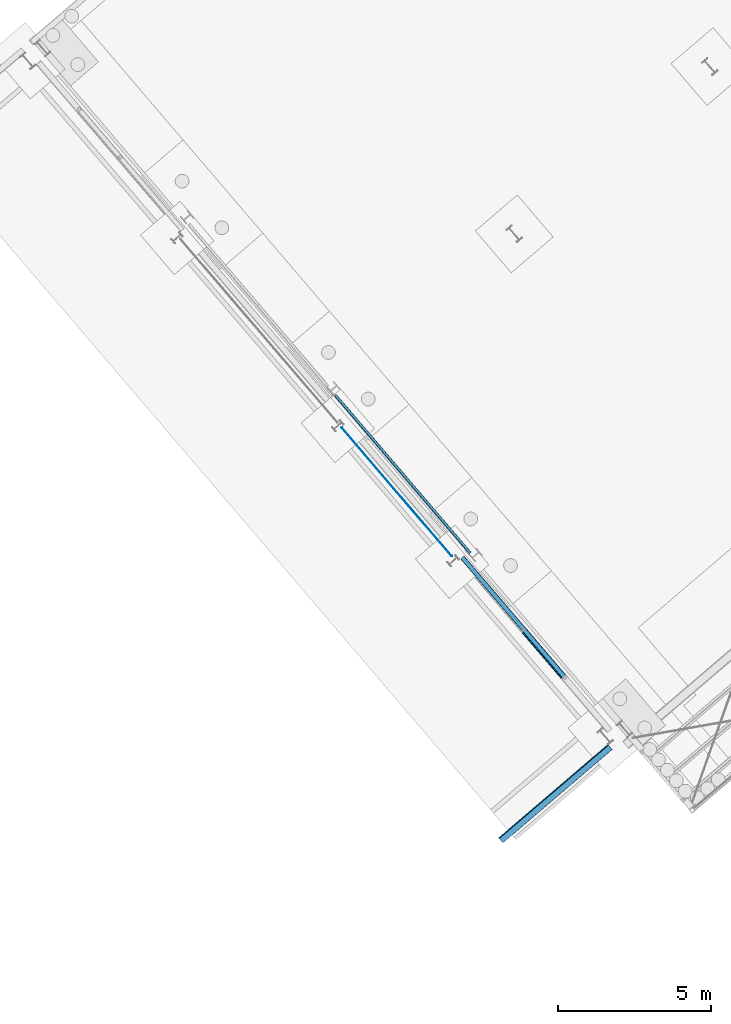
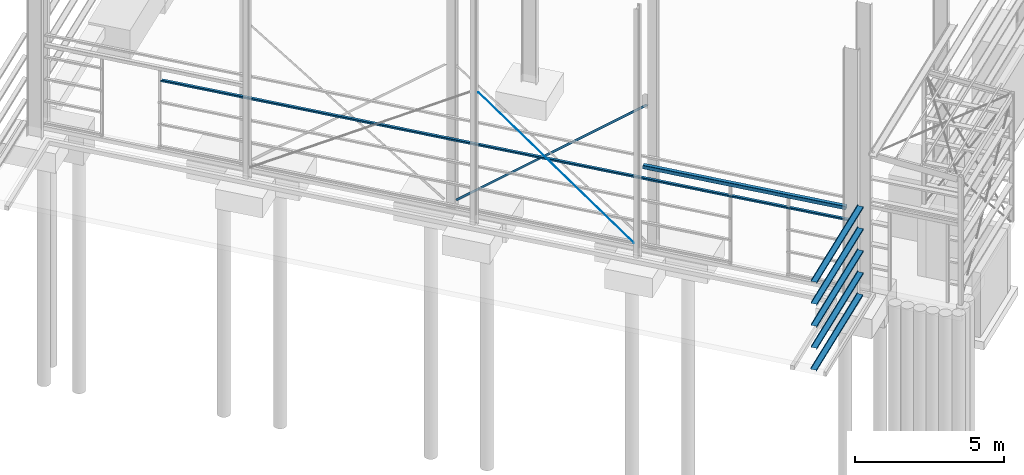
# One storey, part 12 of 41: 9 beams.
"""IFC2X3 building model written with IfcOpenShell, lengths in millimetres."""

from ifc_helpers import new_model, entity, si_unit, converted_unit, derived_unit, direction, frame, frame_2d, origin, place, context, subcontext, project, spatial, polyline, circle_curve, parameter, trimmed, segment, composite_curve, circle, outline, extrude, material, type_object, element, save


model = new_model("IFC2X3")

# Units and contexts
model_context = context("Model", 3, precision=0.01, world=origin(), true_north=direction((6.123031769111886e-17, 1.0)))
body_context = subcontext(model_context, "Body", "Model", "MODEL_VIEW")
ifc_project = project(units=[si_unit("LENGTHUNIT", "METRE", prefix="MILLI"), si_unit("AREAUNIT", "SQUARE_METRE"), si_unit("VOLUMEUNIT", "CUBIC_METRE"), converted_unit("PLANEANGLEUNIT", "DEGREE", entity("IfcRatioMeasure", 0.017453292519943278), si_unit("PLANEANGLEUNIT", "RADIAN"), dimensions=[0, 0, 0, 0, 0, 0, 0]), si_unit("MASSUNIT", "GRAM", prefix="KILO"), derived_unit("MASSDENSITYUNIT", [(si_unit("MASSUNIT", "GRAM", prefix="KILO"), 1), (si_unit("LENGTHUNIT", "METRE"), -3)]), derived_unit("MOMENTOFINERTIAUNIT", [(si_unit("LENGTHUNIT", "METRE"), 4)]), si_unit("TIMEUNIT", "SECOND"), si_unit("FREQUENCYUNIT", "HERTZ"), si_unit("THERMODYNAMICTEMPERATUREUNIT", "DEGREE_CELSIUS"), derived_unit("THERMALTRANSMITTANCEUNIT", [(si_unit("MASSUNIT", "GRAM", prefix="KILO"), 1), (si_unit("THERMODYNAMICTEMPERATUREUNIT", "KELVIN"), -1), (si_unit("TIMEUNIT", "SECOND"), -3)]), derived_unit("VOLUMETRICFLOWRATEUNIT", [(si_unit("LENGTHUNIT", "METRE"), 3), (si_unit("TIMEUNIT", "SECOND"), -1)]), derived_unit("MASSFLOWRATEUNIT", [(si_unit("MASSUNIT", "GRAM", prefix="KILO"), 1), (si_unit("TIMEUNIT", "SECOND"), -1)]), derived_unit("ROTATIONALFREQUENCYUNIT", [(si_unit("TIMEUNIT", "SECOND"), -1)]), si_unit("ELECTRICCURRENTUNIT", "AMPERE"), si_unit("ELECTRICVOLTAGEUNIT", "VOLT"), si_unit("POWERUNIT", "WATT"), si_unit("FORCEUNIT", "NEWTON", prefix="KILO"), si_unit("ILLUMINANCEUNIT", "LUX"), si_unit("LUMINOUSFLUXUNIT", "LUMEN"), si_unit("LUMINOUSINTENSITYUNIT", "CANDELA"), derived_unit("USERDEFINED", [(si_unit("MASSUNIT", "GRAM", prefix="KILO"), -1), (si_unit("LENGTHUNIT", "METRE"), -2), (si_unit("TIMEUNIT", "SECOND"), 3), (si_unit("LUMINOUSFLUXUNIT", "LUMEN"), 1)]), derived_unit("SOUNDPOWERUNIT", [(si_unit("MASSUNIT", "GRAM", prefix="KILO"), 1), (si_unit("LENGTHUNIT", "METRE"), 2), (si_unit("TIMEUNIT", "SECOND"), -3)]), derived_unit("LINEARVELOCITYUNIT", [(si_unit("LENGTHUNIT", "METRE"), 1), (si_unit("TIMEUNIT", "SECOND"), -1)]), si_unit("PRESSUREUNIT", "PASCAL"), derived_unit("USERDEFINED", [(si_unit("LENGTHUNIT", "METRE"), -2), (si_unit("MASSUNIT", "GRAM", prefix="KILO"), 1), (si_unit("TIMEUNIT", "SECOND"), -2)]), derived_unit("LINEARFORCEUNIT", [(si_unit("MASSUNIT", "GRAM", prefix="KILO"), 1), (si_unit("LENGTHUNIT", "METRE"), 1), (si_unit("TIMEUNIT", "SECOND"), -2), (si_unit("LENGTHUNIT", "METRE"), -1)]), derived_unit("PLANARFORCEUNIT", [(si_unit("MASSUNIT", "GRAM", prefix="KILO"), 1), (si_unit("LENGTHUNIT", "METRE"), 1), (si_unit("TIMEUNIT", "SECOND"), -2), (si_unit("LENGTHUNIT", "METRE"), -2)])], contexts=[model_context])

# Site, building, storey
site_placement = place(None, frame((962.4174930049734, -6014.433753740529, 0.0), z_axis=(0.0, 0.0, 1.0), x_axis=(0.7601792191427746, 0.649713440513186, 0.0)))
site = spatial("IfcSite", under=ifc_project, at=site_placement, Name="Default", CompositionType="ELEMENT")
building_placement = place(site_placement, origin())
building = spatial("IfcBuilding", under=site, at=building_placement, CompositionType="ELEMENT")
storey_placement = place(building_placement, origin())
storey = spatial("IfcBuildingStorey", under=building, at=storey_placement, Name="Datum", CompositionType="ELEMENT", Elevation=0.0)

# Beams
ifc_material = material(Name="Metal - Steel - 300 MPa")
beam_type_1 = type_object("IfcBeamType", Name="ADSK_AU_EA-Equal Angles (AS 3679_1):90x90x10EA", PredefinedType="NOTDEFINED")
beam_1_placement = place(storey_placement, frame((154456.88550735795, -18154.018187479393, 5657.6167688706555), z_axis=(0.0, 0.6283895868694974, 0.777898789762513), x_axis=(0.0, 0.777898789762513, -0.6283895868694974)))
element("IfcBeam", 1, at=beam_1_placement, inside=storey, type_object=beam_type_1, material=ifc_material, Name="ADSK_AU_EA-Equal Angles (AS 3679_1):90x90x10EA", ObjectType="ADSK_AU_EA-Equal Angles (AS 3679_1):90x90x10EA", context=body_context, shape_type="SweptSolid", body=[
    extrude(outline(composite_curve([segment(polyline([(29.222222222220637, -55.77777777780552), (34.22222222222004, -55.77777777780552)]), True, "CONTINUOUS"), segment(polyline([(34.22222222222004, -55.777777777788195), (34.22222222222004, 34.222222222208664)]), True, "CONTINUOUS"), segment(polyline([(34.22222222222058, 34.222222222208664), (-55.77777777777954, 34.222222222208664)]), True, "CONTINUOUS"), segment(polyline([(-55.77777777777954, 34.222222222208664), (-55.77777777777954, 29.2222222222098)]), True, "CONTINUOUS"), segment(trimmed(circle_curve(frame_2d((-50.77777777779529, 29.222222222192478), x_axis=(-1.0, 0.0)), 4.999999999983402), [parameter(0.0)], [parameter(90.0000000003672)], True, "PARAMETER"), True, "CONTINUOUS"), segment(polyline([(-50.77777777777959, 24.222222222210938), (16.22222222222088, 24.222222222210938)]), True, "CONTINUOUS"), segment(trimmed(circle_curve(frame_2d((16.22222222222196, 16.222222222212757), x_axis=(0.0, 1.0)), 7.9999999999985), [parameter(269.99999999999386)], [parameter(0.0)], True, "PARAMETER"), False, "CONTINUOUS"), segment(polyline([(24.222222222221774, 16.222222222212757), (24.222222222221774, -50.77777777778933)]), True, "CONTINUOUS"), segment(trimmed(circle_curve(frame_2d((29.22222222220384, -50.77777777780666), x_axis=(-1.0, 0.0)), 4.99999999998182), [parameter(0.0)], [parameter(90.00000000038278)], True, "PARAMETER"), True, "CONTINUOUS")], self_intersect=False)), frame((3.818150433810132, -8.522222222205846, -55.777777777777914), z_axis=(1.0, 0.0, 0.0), x_axis=(0.0, 0.0, -1.0)), (0.0, 0.0, 1.0), 8710.081849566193),
])
beam_type_2 = type_object("IfcBeamType", Name="ADSK_UK_Light Gauge-Zeds-Purlin:Metsec-202Z14", PredefinedType="NOTDEFINED")
beam_2_placement = place(storey_placement, frame((154066.46020470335, -25607.428082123, 2800.0), z_axis=(0.0, 0.0, 1.0), x_axis=(0.0, 1.0, 0.0)))
element("IfcBeam", 2, at=beam_2_placement, inside=storey, type_object=beam_type_2, material=ifc_material, Name="ADSK_UK_Light Gauge-Zeds-Purlin:Metsec-202Z14", ObjectType="ADSK_UK_Light Gauge-Zeds-Purlin:Metsec-202Z14", context=body_context, shape_type="SweptSolid", body=[
    extrude(outline(composite_curve([segment(polyline([(3.600000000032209, -101.19999999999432), (58.0, -101.19999999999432)]), True, "CONTINUOUS"), segment(trimmed(circle_curve(frame_2d((58.0, -98.39999999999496), x_axis=(0.0, -1.0)), 2.800000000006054), [parameter(0.0)], [parameter(89.99999999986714)], True, "PARAMETER"), True, "CONTINUOUS"), segment(polyline([(60.8000000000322, -98.39999999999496), (60.79999999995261, -80.1999999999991)]), True, "CONTINUOUS"), segment(polyline([(60.80000000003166, -80.1999999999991), (59.399999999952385, -80.1999999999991)]), True, "CONTINUOUS"), segment(polyline([(59.40000000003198, -80.19999999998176), (59.399999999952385, -98.39999999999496)]), True, "CONTINUOUS"), segment(trimmed(circle_curve(frame_2d((58.0, -98.39999999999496), x_axis=(1.0, 0.0)), 1.3999999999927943), [parameter(269.9999999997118)], [parameter(0.0)], True, "PARAMETER"), False, "CONTINUOUS"), segment(polyline([(58.0, -99.79999999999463), (3.5999999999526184, -99.79999999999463)]), True, "CONTINUOUS"), segment(trimmed(circle_curve(frame_2d((3.5999999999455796, -98.39999999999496), x_axis=(0.0, -1.0)), 1.3999999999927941), [parameter(269.9999999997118)], [parameter(0.0)], True, "PARAMETER"), False, "CONTINUOUS"), segment(polyline([(2.200000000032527, -98.39999999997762), (2.1999999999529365, 98.0)]), True, "CONTINUOUS"), segment(trimmed(circle_curve(frame_2d((-0.600000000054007, 98.0), x_axis=(1.0, 0.0)), 2.800000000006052), [parameter(0.0)], [parameter(89.99999999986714)], True, "PARAMETER"), True, "CONTINUOUS"), segment(polyline([(-0.5999999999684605, 100.80000000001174), (-60.0, 100.80000000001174)]), True, "CONTINUOUS"), segment(trimmed(circle_curve(frame_2d((-60.0, 98.0), x_axis=(0.0, 1.0)), 2.8000000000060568), [parameter(0.0)], [parameter(89.99999999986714)], True, "PARAMETER"), True, "CONTINUOUS"), segment(polyline([(-62.79999999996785, 98.0), (-62.80000000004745, 81.80000000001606)]), True, "CONTINUOUS"), segment(polyline([(-62.79999999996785, 81.80000000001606), (-61.40000000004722, 81.80000000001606)]), True, "CONTINUOUS"), segment(polyline([(-61.39999999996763, 81.80000000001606), (-61.40000000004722, 98.0)]), True, "CONTINUOUS"), segment(trimmed(circle_curve(frame_2d((-60.0, 98.0), x_axis=(-1.0, 0.0)), 1.399999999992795), [parameter(269.9999999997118)], [parameter(0.0)], True, "PARAMETER"), False, "CONTINUOUS"), segment(polyline([(-60.0, 99.40000000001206), (-0.6000000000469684, 99.40000000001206)]), True, "CONTINUOUS"), segment(trimmed(circle_curve(frame_2d((-0.6000000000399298, 98.0), x_axis=(0.0, 1.0)), 1.3999999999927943), [parameter(269.9999999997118)], [parameter(0.0)], True, "PARAMETER"), False, "CONTINUOUS"), segment(polyline([(0.8000000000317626, 98.0), (0.7999999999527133, -98.39999999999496)]), True, "CONTINUOUS"), segment(trimmed(circle_curve(frame_2d((3.5999999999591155, -98.39999999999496), x_axis=(-1.0, 0.0)), 2.800000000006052), [parameter(0.0)], [parameter(89.99999999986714)], True, "PARAMETER"), True, "CONTINUOUS")], self_intersect=False)), frame((43.0, -100.79999999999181, 0.6999999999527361), z_axis=(1.0, 0.0, 0.0), x_axis=(0.0, 0.0, -1.0)), (0.0, 0.0, 1.0), 24537.0),
])
beam_3_placement = place(storey_placement, frame((153823.43877903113, -25888.928082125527, 3700.0), z_axis=(0.0, 0.0, 1.0), x_axis=(-1.0, 0.0, 0.0)))
element("IfcBeam", 3, at=beam_3_placement, inside=storey, type_object=beam_type_2, material=ifc_material, Name="ADSK_UK_Light Gauge-Zeds-Purlin:Metsec-202Z14", ObjectType="ADSK_UK_Light Gauge-Zeds-Purlin:Metsec-202Z14", context=body_context, shape_type="SweptSolid", body=[
    extrude(outline(composite_curve([segment(polyline([(-60.0, -100.80000000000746), (-0.5999999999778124, -100.80000000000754)]), True, "CONTINUOUS"), segment(trimmed(circle_curve(frame_2d((-0.5999999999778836, -98.0), x_axis=(0.0, -1.0)), 2.7999999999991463), [parameter(0.0)], [parameter(90.00000000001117)], True, "PARAMETER"), True, "CONTINUOUS"), segment(polyline([(2.2000000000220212, -98.0), (2.1999999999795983, 98.3999999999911)]), True, "CONTINUOUS"), segment(trimmed(circle_curve(frame_2d((3.59999999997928, 98.40000000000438), x_axis=(-1.0, 0.0)), 1.4000000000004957), [parameter(270.00000000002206)], [parameter(0.0)], True, "PARAMETER"), False, "CONTINUOUS"), segment(polyline([(3.599999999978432, 99.80000000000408), (58.0, 99.80000000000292)]), True, "CONTINUOUS"), segment(trimmed(circle_curve(frame_2d((58.0, 98.40000000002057), x_axis=(0.0, 1.0)), 1.3999999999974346), [parameter(269.99999999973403)], [parameter(0.0)], True, "PARAMETER"), False, "CONTINUOUS"), segment(polyline([(59.3999999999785, 98.40000000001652), (59.399999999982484, 80.20000000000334)]), True, "CONTINUOUS"), segment(polyline([(59.399999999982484, 80.20000000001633), (60.79999999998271, 80.20000000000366)]), True, "CONTINUOUS"), segment(polyline([(60.79999999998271, 80.20000000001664), (60.79999999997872, 98.40000000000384)]), True, "CONTINUOUS"), segment(trimmed(circle_curve(frame_2d((58.0, 98.40000000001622), x_axis=(1.0, 0.0)), 2.7999999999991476), [parameter(0.0)], [parameter(90.00000000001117)], True, "PARAMETER"), True, "CONTINUOUS"), segment(polyline([(58.0, 101.2000000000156), (3.5999999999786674, 101.19999999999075)]), True, "CONTINUOUS"), segment(trimmed(circle_curve(frame_2d((3.5999999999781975, 98.40000000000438), x_axis=(0.0, 1.0)), 2.799999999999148), [parameter(0.0)], [parameter(90.00000000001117)], True, "PARAMETER"), True, "CONTINUOUS"), segment(polyline([(0.7999999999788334, 98.40000000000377), (0.8000000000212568, -98.0)]), True, "CONTINUOUS"), segment(trimmed(circle_curve(frame_2d((-0.5999999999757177, -98.0), x_axis=(1.0, 0.0)), 1.399999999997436), [parameter(269.99999999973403)], [parameter(0.0)], True, "PARAMETER"), False, "CONTINUOUS"), segment(polyline([(-0.5999999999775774, -99.39999999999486), (-60.0, -99.40000000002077)]), True, "CONTINUOUS"), segment(trimmed(circle_curve(frame_2d((-60.0, -98.0), x_axis=(0.0, -1.0)), 1.4000000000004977), [parameter(270.00000000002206)], [parameter(0.0)], True, "PARAMETER"), False, "CONTINUOUS"), segment(polyline([(-61.39999999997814, -98.0), (-61.39999999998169, -81.80000000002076)]), True, "CONTINUOUS"), segment(polyline([(-61.39999999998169, -81.80000000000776), (-62.799999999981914, -81.80000000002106)]), True, "CONTINUOUS"), segment(polyline([(-62.799999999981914, -81.80000000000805), (-62.79999999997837, -98.0)]), True, "CONTINUOUS"), segment(trimmed(circle_curve(frame_2d((-60.0, -98.0), x_axis=(-1.0, 0.0)), 2.7999999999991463), [parameter(0.0)], [parameter(90.00000000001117)], True, "PARAMETER"), True, "CONTINUOUS")], self_intersect=False)), frame((-12.0, 100.79999999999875, 0.7000000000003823), z_axis=(1.0, 0.0, 0.0), x_axis=(0.0, 0.0, -1.0)), (0.0, 0.0, 1.0), 4692.000000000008),
])
beam_4_placement = place(storey_placement, frame((154043.43877903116, -25888.928082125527, 2800.0), z_axis=(0.0, 0.0, 1.0), x_axis=(-1.0, 0.0, 0.0)))
element("IfcBeam", 4, at=beam_4_placement, inside=storey, type_object=beam_type_2, material=ifc_material, Name="ADSK_UK_Light Gauge-Zeds-Purlin:Metsec-202Z14", ObjectType="ADSK_UK_Light Gauge-Zeds-Purlin:Metsec-202Z14", context=body_context, shape_type="SweptSolid", body=[
    extrude(outline(composite_curve([segment(polyline([(-60.0, -100.80000000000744), (-0.599999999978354, -100.80000000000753)]), True, "CONTINUOUS"), segment(trimmed(circle_curve(frame_2d((-0.5999999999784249, -98.0), x_axis=(0.0, -1.0)), 2.7999999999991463), [parameter(0.0)], [parameter(90.00000000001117)], True, "PARAMETER"), True, "CONTINUOUS"), segment(polyline([(2.2000000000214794, -98.0), (2.199999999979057, 98.39999999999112)]), True, "CONTINUOUS"), segment(trimmed(circle_curve(frame_2d((3.5999999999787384, 98.40000000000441), x_axis=(-1.0, 0.0)), 1.4000000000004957), [parameter(270.00000000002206)], [parameter(0.0)], True, "PARAMETER"), False, "CONTINUOUS"), segment(polyline([(3.5999999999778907, 99.80000000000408), (58.0, 99.80000000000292)]), True, "CONTINUOUS"), segment(trimmed(circle_curve(frame_2d((58.0, 98.40000000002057), x_axis=(0.0, 1.0)), 1.3999999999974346), [parameter(269.99999999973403)], [parameter(0.0)], True, "PARAMETER"), False, "CONTINUOUS"), segment(polyline([(59.399999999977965, 98.40000000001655), (59.39999999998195, 80.20000000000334)]), True, "CONTINUOUS"), segment(polyline([(59.39999999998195, 80.20000000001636), (60.79999999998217, 80.20000000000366)]), True, "CONTINUOUS"), segment(polyline([(60.79999999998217, 80.20000000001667), (60.79999999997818, 98.40000000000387)]), True, "CONTINUOUS"), segment(trimmed(circle_curve(frame_2d((58.0, 98.40000000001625), x_axis=(1.0, 0.0)), 2.7999999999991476), [parameter(0.0)], [parameter(90.00000000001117)], True, "PARAMETER"), True, "CONTINUOUS"), segment(polyline([(58.0, 101.2000000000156), (3.5999999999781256, 101.19999999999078)]), True, "CONTINUOUS"), segment(trimmed(circle_curve(frame_2d((3.5999999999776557, 98.40000000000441), x_axis=(0.0, 1.0)), 2.799999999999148), [parameter(0.0)], [parameter(90.00000000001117)], True, "PARAMETER"), True, "CONTINUOUS"), segment(polyline([(0.799999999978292, 98.4000000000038), (0.8000000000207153, -98.0)]), True, "CONTINUOUS"), segment(trimmed(circle_curve(frame_2d((-0.5999999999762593, -98.0), x_axis=(1.0, 0.0)), 1.399999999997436), [parameter(269.99999999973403)], [parameter(0.0)], True, "PARAMETER"), False, "CONTINUOUS"), segment(polyline([(-0.5999999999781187, -99.39999999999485), (-60.0, -99.40000000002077)]), True, "CONTINUOUS"), segment(trimmed(circle_curve(frame_2d((-60.0, -98.0), x_axis=(0.0, -1.0)), 1.4000000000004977), [parameter(270.00000000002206)], [parameter(0.0)], True, "PARAMETER"), False, "CONTINUOUS"), segment(polyline([(-61.39999999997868, -98.0), (-61.39999999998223, -81.80000000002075)]), True, "CONTINUOUS"), segment(polyline([(-61.39999999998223, -81.80000000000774), (-62.799999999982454, -81.80000000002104)]), True, "CONTINUOUS"), segment(polyline([(-62.799999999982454, -81.80000000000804), (-62.79999999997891, -98.0)]), True, "CONTINUOUS"), segment(trimmed(circle_curve(frame_2d((-60.0, -98.0), x_axis=(-1.0, 0.0)), 2.7999999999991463), [parameter(0.0)], [parameter(90.00000000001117)], True, "PARAMETER"), True, "CONTINUOUS")], self_intersect=False)), frame((209.0, 100.80000000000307, 0.6999999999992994), z_axis=(1.0, 0.0, 0.0), x_axis=(0.0, 0.0, -1.0)), (0.0, 0.0, 1.0), 4691.000000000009),
])
beam_5_placement = place(storey_placement, frame((154043.43877903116, -25888.928082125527, 1900.0), z_axis=(0.0, 0.0, 1.0), x_axis=(-1.0, 0.0, 0.0)))
element("IfcBeam", 5, at=beam_5_placement, inside=storey, type_object=beam_type_2, material=ifc_material, Name="ADSK_UK_Light Gauge-Zeds-Purlin:Metsec-202Z14", ObjectType="ADSK_UK_Light Gauge-Zeds-Purlin:Metsec-202Z14", context=body_context, shape_type="SweptSolid", body=[
    extrude(outline(composite_curve([segment(polyline([(-60.0, -100.80000000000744), (-0.5999999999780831, -100.80000000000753)]), True, "CONTINUOUS"), segment(trimmed(circle_curve(frame_2d((-0.5999999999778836, -98.0), x_axis=(0.0, -1.0)), 2.7999999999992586), [parameter(0.0)], [parameter(90.00000000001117)], True, "PARAMETER"), True, "CONTINUOUS"), segment(polyline([(2.2000000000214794, -98.0), (2.199999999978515, 98.39999999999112)]), True, "CONTINUOUS"), segment(trimmed(circle_curve(frame_2d((3.5999999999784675, 98.40000000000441), x_axis=(-1.0, 0.0)), 1.3999999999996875), [parameter(269.9999999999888)], [parameter(0.0)], True, "PARAMETER"), False, "CONTINUOUS"), segment(polyline([(3.599999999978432, 99.80000000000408), (58.0, 99.80000000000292)]), True, "CONTINUOUS"), segment(trimmed(circle_curve(frame_2d((58.0, 98.40000000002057), x_axis=(0.0, 1.0)), 1.3999999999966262), [parameter(269.9999999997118)], [parameter(0.0)], True, "PARAMETER"), False, "CONTINUOUS"), segment(polyline([(59.39999999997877, 98.40000000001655), (59.399999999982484, 80.20000000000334)]), True, "CONTINUOUS"), segment(polyline([(59.399999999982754, 80.20000000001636), (60.79999999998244, 80.20000000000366)]), True, "CONTINUOUS"), segment(polyline([(60.79999999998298, 80.20000000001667), (60.79999999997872, 98.40000000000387)]), True, "CONTINUOUS"), segment(trimmed(circle_curve(frame_2d((58.0, 98.40000000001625), x_axis=(1.0, 0.0)), 2.799999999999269), [parameter(0.0)], [parameter(90.00000000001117)], True, "PARAMETER"), True, "CONTINUOUS"), segment(polyline([(58.0, 101.2000000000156), (3.5999999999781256, 101.19999999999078)]), True, "CONTINUOUS"), segment(trimmed(circle_curve(frame_2d((3.5999999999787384, 98.40000000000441), x_axis=(0.0, 1.0)), 2.7999999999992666), [parameter(0.0)], [parameter(90.00000000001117)], True, "PARAMETER"), True, "CONTINUOUS"), segment(polyline([(0.7999999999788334, 98.4000000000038), (0.8000000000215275, -98.0)]), True, "CONTINUOUS"), segment(trimmed(circle_curve(frame_2d((-0.5999999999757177, -98.0), x_axis=(1.0, 0.0)), 1.3999999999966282), [parameter(269.9999999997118)], [parameter(0.0)], True, "PARAMETER"), False, "CONTINUOUS"), segment(polyline([(-0.5999999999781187, -99.39999999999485), (-60.0, -99.40000000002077)]), True, "CONTINUOUS"), segment(trimmed(circle_curve(frame_2d((-60.0, -98.0), x_axis=(0.0, -1.0)), 1.3999999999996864), [parameter(269.9999999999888)], [parameter(0.0)], True, "PARAMETER"), False, "CONTINUOUS"), segment(polyline([(-61.39999999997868, -98.0), (-61.39999999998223, -81.80000000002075)]), True, "CONTINUOUS"), segment(polyline([(-61.39999999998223, -81.80000000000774), (-62.799999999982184, -81.80000000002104)]), True, "CONTINUOUS"), segment(polyline([(-62.799999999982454, -81.80000000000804), (-62.79999999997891, -98.0)]), True, "CONTINUOUS"), segment(trimmed(circle_curve(frame_2d((-60.0, -98.0), x_axis=(-1.0, 0.0)), 2.79999999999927), [parameter(0.0)], [parameter(90.00000000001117)], True, "PARAMETER"), True, "CONTINUOUS")], self_intersect=False)), frame((209.0, 100.80000000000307, 0.7000000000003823), z_axis=(1.0, 0.0, 0.0), x_axis=(0.0, 0.0, -1.0)), (0.0, 0.0, 1.0), 4691.000000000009),
])
beam_6_placement = place(storey_placement, frame((153803.43877903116, -25888.928082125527, 1000.0), z_axis=(0.0, 0.0, 1.0), x_axis=(-1.0, 0.0, 0.0)))
element("IfcBeam", 6, at=beam_6_placement, inside=storey, type_object=beam_type_2, material=ifc_material, Name="ADSK_UK_Light Gauge-Zeds-Purlin:Metsec-202Z14", ObjectType="ADSK_UK_Light Gauge-Zeds-Purlin:Metsec-202Z14", context=body_context, shape_type="SweptSolid", body=[
    extrude(outline(composite_curve([segment(polyline([(-60.0, -100.80000000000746), (-0.5999999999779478, -100.80000000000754)]), True, "CONTINUOUS"), segment(trimmed(circle_curve(frame_2d((-0.5999999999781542, -98.0), x_axis=(0.0, -1.0)), 2.7999999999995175), [parameter(0.0)], [parameter(90.00000000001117)], True, "PARAMETER"), True, "CONTINUOUS"), segment(polyline([(2.2000000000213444, -98.0), (2.199999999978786, 98.3999999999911)]), True, "CONTINUOUS"), segment(trimmed(circle_curve(frame_2d((3.599999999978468, 98.40000000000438), x_axis=(-1.0, 0.0)), 1.3999999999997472), [parameter(269.9999999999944)], [parameter(0.0)], True, "PARAMETER"), False, "CONTINUOUS"), segment(polyline([(3.599999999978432, 99.80000000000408), (58.0, 99.80000000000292)]), True, "CONTINUOUS"), segment(trimmed(circle_curve(frame_2d((58.0, 98.40000000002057), x_axis=(0.0, 1.0)), 1.399999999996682), [parameter(269.9999999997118)], [parameter(0.0)], True, "PARAMETER"), False, "CONTINUOUS"), segment(polyline([(59.3999999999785, 98.40000000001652), (59.399999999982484, 80.20000000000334)]), True, "CONTINUOUS"), segment(polyline([(59.399999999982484, 80.20000000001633), (60.79999999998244, 80.20000000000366)]), True, "CONTINUOUS"), segment(polyline([(60.79999999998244, 80.20000000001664), (60.79999999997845, 98.40000000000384)]), True, "CONTINUOUS"), segment(trimmed(circle_curve(frame_2d((58.0, 98.40000000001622), x_axis=(1.0, 0.0)), 2.7999999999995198), [parameter(0.0)], [parameter(90.00000000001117)], True, "PARAMETER"), True, "CONTINUOUS"), segment(polyline([(58.0, 101.2000000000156), (3.599999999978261, 101.19999999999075)]), True, "CONTINUOUS"), segment(trimmed(circle_curve(frame_2d((3.5999999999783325, 98.40000000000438), x_axis=(0.0, 1.0)), 2.7999999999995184), [parameter(0.0)], [parameter(90.00000000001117)], True, "PARAMETER"), True, "CONTINUOUS"), segment(polyline([(0.7999999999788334, 98.40000000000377), (0.8000000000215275, -98.0)]), True, "CONTINUOUS"), segment(trimmed(circle_curve(frame_2d((-0.5999999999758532, -98.0), x_axis=(1.0, 0.0)), 1.3999999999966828), [parameter(269.9999999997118)], [parameter(0.0)], True, "PARAMETER"), False, "CONTINUOUS"), segment(polyline([(-0.5999999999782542, -99.39999999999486), (-60.0, -99.40000000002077)]), True, "CONTINUOUS"), segment(trimmed(circle_curve(frame_2d((-60.0, -98.0), x_axis=(0.0, -1.0)), 1.399999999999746), [parameter(269.9999999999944)], [parameter(0.0)], True, "PARAMETER"), False, "CONTINUOUS"), segment(polyline([(-61.39999999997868, -98.0), (-61.39999999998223, -81.80000000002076)]), True, "CONTINUOUS"), segment(polyline([(-61.39999999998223, -81.80000000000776), (-62.799999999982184, -81.80000000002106)]), True, "CONTINUOUS"), segment(polyline([(-62.799999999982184, -81.80000000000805), (-62.79999999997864, -98.0)]), True, "CONTINUOUS"), segment(trimmed(circle_curve(frame_2d((-60.0, -98.0), x_axis=(-1.0, 0.0)), 2.799999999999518), [parameter(0.0)], [parameter(90.00000000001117)], True, "PARAMETER"), True, "CONTINUOUS")], self_intersect=False)), frame((-32.0, 100.79999999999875, 0.6999999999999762), z_axis=(1.0, 0.0, 0.0), x_axis=(0.0, 0.0, -1.0)), (0.0, 0.0, 1.0), 4692.000000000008),
])
beam_7_placement = place(storey_placement, frame((153823.43877903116, -25873.328082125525, 100.0), z_axis=(0.0, 0.0, 1.0), x_axis=(-1.0, 0.0, 0.0)))
element("IfcBeam", 7, at=beam_7_placement, inside=storey, type_object=beam_type_2, material=ifc_material, Name="ADSK_UK_Light Gauge-Zeds-Purlin:Metsec-202Z14", ObjectType="ADSK_UK_Light Gauge-Zeds-Purlin:Metsec-202Z14", context=body_context, shape_type="SweptSolid", body=[
    extrude(outline(composite_curve([segment(polyline([(-60.0, -100.80000000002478), (-0.5999999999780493, -100.80000000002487)]), True, "CONTINUOUS"), segment(trimmed(circle_curve(frame_2d((-0.5999999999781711, -98.0), x_axis=(0.0, -1.0)), 2.7999999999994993), [parameter(0.0)], [parameter(90.00000000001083)], True, "PARAMETER"), True, "CONTINUOUS"), segment(polyline([(2.2000000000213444, -98.0), (2.1999999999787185, 98.39999999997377)]), True, "CONTINUOUS"), segment(trimmed(circle_curve(frame_2d((3.5999999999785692, 98.39999999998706), x_axis=(-1.0, 0.0)), 1.399999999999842), [parameter(269.9999999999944)], [parameter(0.0)], True, "PARAMETER"), False, "CONTINUOUS"), segment(polyline([(3.599999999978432, 99.79999999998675), (58.0, 99.7999999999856)]), True, "CONTINUOUS"), segment(trimmed(circle_curve(frame_2d((58.0, 98.40000000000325), x_axis=(0.0, 1.0)), 1.3999999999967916), [parameter(269.99999999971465)], [parameter(0.0)], True, "PARAMETER"), False, "CONTINUOUS"), segment(polyline([(59.39999999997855, 98.3999999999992), (59.3999999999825, 80.19999999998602)]), True, "CONTINUOUS"), segment(polyline([(59.3999999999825, 80.19999999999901), (60.799999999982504, 80.19999999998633)]), True, "CONTINUOUS"), segment(polyline([(60.799999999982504, 80.19999999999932), (60.79999999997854, 98.39999999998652)]), True, "CONTINUOUS"), segment(trimmed(circle_curve(frame_2d((58.0, 98.3999999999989), x_axis=(1.0, 0.0)), 2.799999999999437), [parameter(0.0)], [parameter(90.00000000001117)], True, "PARAMETER"), True, "CONTINUOUS"), segment(polyline([(58.0, 101.19999999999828), (3.599999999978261, 101.19999999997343)]), True, "CONTINUOUS"), segment(trimmed(circle_curve(frame_2d((3.5999999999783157, 98.39999999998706), x_axis=(0.0, 1.0)), 2.799999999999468), [parameter(0.0)], [parameter(90.00000000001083)], True, "PARAMETER"), True, "CONTINUOUS"), segment(polyline([(0.7999999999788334, 98.39999999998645), (0.8000000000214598, -98.0)]), True, "CONTINUOUS"), segment(trimmed(circle_curve(frame_2d((-0.5999999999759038, -98.0), x_axis=(1.0, 0.0)), 1.3999999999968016), [parameter(269.99999999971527)], [parameter(0.0)], True, "PARAMETER"), False, "CONTINUOUS"), segment(polyline([(-0.5999999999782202, -99.40000000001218), (-60.0, -99.40000000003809)]), True, "CONTINUOUS"), segment(trimmed(circle_curve(frame_2d((-60.0, -98.0), x_axis=(0.0, -1.0)), 1.399999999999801), [parameter(269.999999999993)], [parameter(0.0)], True, "PARAMETER"), False, "CONTINUOUS"), segment(polyline([(-61.39999999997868, -98.0), (-61.39999999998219, -81.80000000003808)]), True, "CONTINUOUS"), segment(polyline([(-61.39999999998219, -81.80000000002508), (-62.79999999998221, -81.80000000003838)]), True, "CONTINUOUS"), segment(polyline([(-62.79999999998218, -81.80000000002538), (-62.79999999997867, -98.0)]), True, "CONTINUOUS"), segment(trimmed(circle_curve(frame_2d((-60.0, -98.0), x_axis=(-1.0, 0.0)), 2.799999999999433), [parameter(0.0)], [parameter(90.00000000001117)], True, "PARAMETER"), True, "CONTINUOUS")], self_intersect=False)), frame((-12.0, 100.80000000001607, 0.7000000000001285), z_axis=(1.0, 0.0, 0.0), x_axis=(0.0, 0.0, -1.0)), (0.0, 0.0, 1.0), 4692.000000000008),
])
beam_type_3 = type_object("IfcBeamType", Name="ADSK_AU_Round Bars (AS 3679_1):24ROD (EXISTING)", PredefinedType="NOTDEFINED")
beam_8_placement = place(storey_placement, frame((153941.8926704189, -17889.489283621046, 216.48212388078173), z_axis=(0.0, -0.6616917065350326, 0.7497760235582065), x_axis=(0.0, 0.7497760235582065, 0.6616917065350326)))
element("IfcBeam", 8, at=beam_8_placement, inside=storey, type_object=beam_type_3, Name="ADSK_AU_Round Bars (AS 3679_1):24ROD (EXISTING)", ObjectType="ADSK_AU_Round Bars (AS 3679_1):24ROD (EXISTING)", context=body_context, shape_type="SweptSolid", body=[
    extrude(circle(Radius=12.000000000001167, at=frame_2d((-2.5372119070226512e-14, 4.7048644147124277e-29), x_axis=(1.0, 0.0))), frame((0.0, -12.0, 0.0), z_axis=(1.0, 0.0, 0.0), x_axis=(0.0, 0.0, -1.0)), (0.0, 0.0, 1.0), 7363.979347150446),
])
beam_type_4 = type_object("IfcBeamType", Name="ADSK_AU_SHS-Square Hollow Sections (AS 1163_C350):150x150x6.0SHS", PredefinedType="NOTDEFINED")
beam_9_placement = place(building_placement, frame((154112.9602047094, -25347.180706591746, 3275.0), z_axis=(0.0, 0.0, 1.0), x_axis=(0.0, 1.0, 0.0)))
element("IfcBeam", 9, at=beam_9_placement, inside=storey, type_object=beam_type_4, material=ifc_material, Name="ADSK_AU_SHS-Square Hollow Sections (AS 1163_C350):150x150x6.0SHS", ObjectType="ADSK_AU_SHS-Square Hollow Sections (AS 1163_C350):150x150x6.0SHS", context=body_context, shape_type="SweptSolid", body=[
    extrude(outline(composite_curve([segment(trimmed(circle_curve(frame_2d((-60.0, -60.0), x_axis=(1.0, 0.0)), 15.0), [parameter(179.99999999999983)], [parameter(269.99999999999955)], True, "PARAMETER"), True, "CONTINUOUS"), segment(polyline([(-60.0, -75.0), (60.0, -75.0)]), True, "CONTINUOUS"), segment(trimmed(circle_curve(frame_2d((60.0, -60.0), x_axis=(1.0, 0.0)), 15.0), [parameter(269.9999999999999)], [parameter(359.99999999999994)], True, "PARAMETER"), True, "CONTINUOUS"), segment(polyline([(75.0, -60.0), (75.0, 60.0)]), True, "CONTINUOUS"), segment(trimmed(circle_curve(frame_2d((60.0, 60.0), x_axis=(1.0, 0.0)), 15.0), [parameter(359.99999999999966)], [parameter(89.99999999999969)], True, "PARAMETER"), True, "CONTINUOUS"), segment(polyline([(60.0, 75.0), (-60.0, 75.0)]), True, "CONTINUOUS"), segment(trimmed(circle_curve(frame_2d((-60.0, 60.0), x_axis=(1.0, 0.0)), 15.0), [parameter(90.00000000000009)], [parameter(180.00000000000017)], True, "PARAMETER"), True, "CONTINUOUS"), segment(polyline([(-75.0, 60.0), (-75.0, -60.0)]), True, "CONTINUOUS")], self_intersect=False), holes=[composite_curve([segment(polyline([(60.0, -69.0), (-60.0, -69.0)]), True, "CONTINUOUS"), segment(trimmed(circle_curve(frame_2d((-60.0, -60.0), x_axis=(1.0, 0.0)), 9.0), [parameter(180.00000000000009)], [parameter(269.9999999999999)], True, "PARAMETER"), False, "CONTINUOUS"), segment(polyline([(-69.0, -60.0), (-69.0, 60.0)]), True, "CONTINUOUS"), segment(trimmed(circle_curve(frame_2d((-60.0, 60.0), x_axis=(1.0, 0.0)), 9.0), [parameter(90.00000000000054)], [parameter(180.0000000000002)], True, "PARAMETER"), False, "CONTINUOUS"), segment(polyline([(-60.0, 69.0), (60.0, 69.0)]), True, "CONTINUOUS"), segment(trimmed(circle_curve(frame_2d((60.0, 60.0), x_axis=(1.0, 0.0)), 9.0), [parameter(359.99999999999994)], [parameter(90.00000000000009)], True, "PARAMETER"), False, "CONTINUOUS"), segment(polyline([(69.0, 60.0), (69.0, -60.0)]), True, "CONTINUOUS"), segment(trimmed(circle_curve(frame_2d((60.0, -60.0), x_axis=(1.0, 0.0)), 9.0), [parameter(270.0000000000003)], [parameter(3.5622212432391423e-13)], True, "PARAMETER"), False, "CONTINUOUS")], self_intersect=False)]), frame((-8.747375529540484, -75.0, 0.0), z_axis=(1.0, 0.0, 0.0), x_axis=(0.0, 0.0, 1.0)), (0.0, 0.0, 1.0), 7208.747375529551),
])

save(model, "model.ifc")
